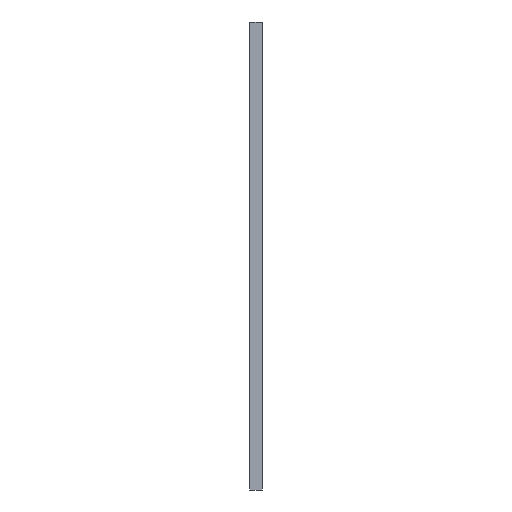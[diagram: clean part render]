
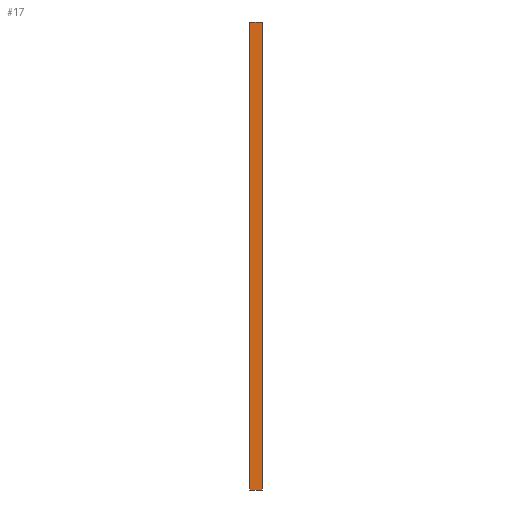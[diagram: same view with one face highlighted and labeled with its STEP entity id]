
A CAD part, left-side view. The second image highlights one B-rep face of the part: STEP entity #17.
In plain terms, the highlighted planar face has unit normal (-1, 0, 0).
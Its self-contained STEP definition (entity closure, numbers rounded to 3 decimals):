
#17 = ADVANCED_FACE('',(#18),#32,.F.);
#18 = FACE_BOUND('',#19,.T.);
#19 = EDGE_LOOP('',(#20,#55,#83,#111));
#20 = ORIENTED_EDGE('',*,*,#21,.F.);
#21 = EDGE_CURVE('',#22,#24,#26,.T.);
#22 = VERTEX_POINT('',#23);
#23 = CARTESIAN_POINT('',(-70.,15.5,145.));
#24 = VERTEX_POINT('',#25);
#25 = CARTESIAN_POINT('',(-70.,12.5,145.));
#26 = SURFACE_CURVE('',#27,(#31,#43),.PCURVE_S1.);
#27 = LINE('',#28,#29);
#28 = CARTESIAN_POINT('',(-70.,12.5,145.));
#29 = VECTOR('',#30,1.);
#30 = DIRECTION('',(0.,-1.,0.));
#31 = PCURVE('',#32,#37);
#32 = PLANE('',#33);
#33 = AXIS2_PLACEMENT_3D('',#34,#35,#36);
#34 = CARTESIAN_POINT('',(-70.,12.5,35.));
#35 = DIRECTION('',(1.,0.,0.));
#36 = DIRECTION('',(0.,0.,1.));
#37 = DEFINITIONAL_REPRESENTATION('',(#38),#42);
#38 = LINE('',#39,#40);
#39 = CARTESIAN_POINT('',(110.,0.));
#40 = VECTOR('',#41,1.);
#41 = DIRECTION('',(0.,1.));
#42 = ( GEOMETRIC_REPRESENTATION_CONTEXT(2) 
PARAMETRIC_REPRESENTATION_CONTEXT() REPRESENTATION_CONTEXT('2D SPACE',''
  ) );
#43 = PCURVE('',#44,#49);
#44 = PLANE('',#45);
#45 = AXIS2_PLACEMENT_3D('',#46,#47,#48);
#46 = CARTESIAN_POINT('',(-70.,12.5,145.));
#47 = DIRECTION('',(0.,0.,1.));
#48 = DIRECTION('',(1.,0.,0.));
#49 = DEFINITIONAL_REPRESENTATION('',(#50),#54);
#50 = LINE('',#51,#52);
#51 = CARTESIAN_POINT('',(0.,0.));
#52 = VECTOR('',#53,1.);
#53 = DIRECTION('',(0.,-1.));
#54 = ( GEOMETRIC_REPRESENTATION_CONTEXT(2) 
PARAMETRIC_REPRESENTATION_CONTEXT() REPRESENTATION_CONTEXT('2D SPACE',''
  ) );
#55 = ORIENTED_EDGE('',*,*,#56,.F.);
#56 = EDGE_CURVE('',#57,#22,#59,.T.);
#57 = VERTEX_POINT('',#58);
#58 = CARTESIAN_POINT('',(-70.,15.5,35.));
#59 = SURFACE_CURVE('',#60,(#64,#71),.PCURVE_S1.);
#60 = LINE('',#61,#62);
#61 = CARTESIAN_POINT('',(-70.,15.5,35.));
#62 = VECTOR('',#63,1.);
#63 = DIRECTION('',(0.,0.,1.));
#64 = PCURVE('',#32,#65);
#65 = DEFINITIONAL_REPRESENTATION('',(#66),#70);
#66 = LINE('',#67,#68);
#67 = CARTESIAN_POINT('',(0.,-3.));
#68 = VECTOR('',#69,1.);
#69 = DIRECTION('',(1.,0.));
#70 = ( GEOMETRIC_REPRESENTATION_CONTEXT(2) 
PARAMETRIC_REPRESENTATION_CONTEXT() REPRESENTATION_CONTEXT('2D SPACE',''
  ) );
#71 = PCURVE('',#72,#77);
#72 = PLANE('',#73);
#73 = AXIS2_PLACEMENT_3D('',#74,#75,#76);
#74 = CARTESIAN_POINT('',(-70.,15.5,35.));
#75 = DIRECTION('',(0.,1.,0.));
#76 = DIRECTION('',(0.,0.,1.));
#77 = DEFINITIONAL_REPRESENTATION('',(#78),#82);
#78 = LINE('',#79,#80);
#79 = CARTESIAN_POINT('',(0.,0.));
#80 = VECTOR('',#81,1.);
#81 = DIRECTION('',(1.,0.));
#82 = ( GEOMETRIC_REPRESENTATION_CONTEXT(2) 
PARAMETRIC_REPRESENTATION_CONTEXT() REPRESENTATION_CONTEXT('2D SPACE',''
  ) );
#83 = ORIENTED_EDGE('',*,*,#84,.F.);
#84 = EDGE_CURVE('',#85,#57,#87,.T.);
#85 = VERTEX_POINT('',#86);
#86 = CARTESIAN_POINT('',(-70.,12.5,35.));
#87 = SURFACE_CURVE('',#88,(#92,#99),.PCURVE_S1.);
#88 = LINE('',#89,#90);
#89 = CARTESIAN_POINT('',(-70.,12.5,35.));
#90 = VECTOR('',#91,1.);
#91 = DIRECTION('',(0.,1.,0.));
#92 = PCURVE('',#32,#93);
#93 = DEFINITIONAL_REPRESENTATION('',(#94),#98);
#94 = LINE('',#95,#96);
#95 = CARTESIAN_POINT('',(0.,0.));
#96 = VECTOR('',#97,1.);
#97 = DIRECTION('',(0.,-1.));
#98 = ( GEOMETRIC_REPRESENTATION_CONTEXT(2) 
PARAMETRIC_REPRESENTATION_CONTEXT() REPRESENTATION_CONTEXT('2D SPACE',''
  ) );
#99 = PCURVE('',#100,#105);
#100 = PLANE('',#101);
#101 = AXIS2_PLACEMENT_3D('',#102,#103,#104);
#102 = CARTESIAN_POINT('',(-70.,12.5,35.));
#103 = DIRECTION('',(0.,0.,1.));
#104 = DIRECTION('',(1.,0.,0.));
#105 = DEFINITIONAL_REPRESENTATION('',(#106),#110);
#106 = LINE('',#107,#108);
#107 = CARTESIAN_POINT('',(0.,0.));
#108 = VECTOR('',#109,1.);
#109 = DIRECTION('',(0.,1.));
#110 = ( GEOMETRIC_REPRESENTATION_CONTEXT(2) 
PARAMETRIC_REPRESENTATION_CONTEXT() REPRESENTATION_CONTEXT('2D SPACE',''
  ) );
#111 = ORIENTED_EDGE('',*,*,#112,.T.);
#112 = EDGE_CURVE('',#85,#24,#113,.T.);
#113 = SURFACE_CURVE('',#114,(#118,#125),.PCURVE_S1.);
#114 = LINE('',#115,#116);
#115 = CARTESIAN_POINT('',(-70.,12.5,35.));
#116 = VECTOR('',#117,1.);
#117 = DIRECTION('',(0.,0.,1.));
#118 = PCURVE('',#32,#119);
#119 = DEFINITIONAL_REPRESENTATION('',(#120),#124);
#120 = LINE('',#121,#122);
#121 = CARTESIAN_POINT('',(0.,0.));
#122 = VECTOR('',#123,1.);
#123 = DIRECTION('',(1.,0.));
#124 = ( GEOMETRIC_REPRESENTATION_CONTEXT(2) 
PARAMETRIC_REPRESENTATION_CONTEXT() REPRESENTATION_CONTEXT('2D SPACE',''
  ) );
#125 = PCURVE('',#126,#131);
#126 = PLANE('',#127);
#127 = AXIS2_PLACEMENT_3D('',#128,#129,#130);
#128 = CARTESIAN_POINT('',(-70.,12.5,35.));
#129 = DIRECTION('',(0.,1.,0.));
#130 = DIRECTION('',(0.,0.,1.));
#131 = DEFINITIONAL_REPRESENTATION('',(#132),#136);
#132 = LINE('',#133,#134);
#133 = CARTESIAN_POINT('',(0.,0.));
#134 = VECTOR('',#135,1.);
#135 = DIRECTION('',(1.,0.));
#136 = ( GEOMETRIC_REPRESENTATION_CONTEXT(2) 
PARAMETRIC_REPRESENTATION_CONTEXT() REPRESENTATION_CONTEXT('2D SPACE',''
  ) );
